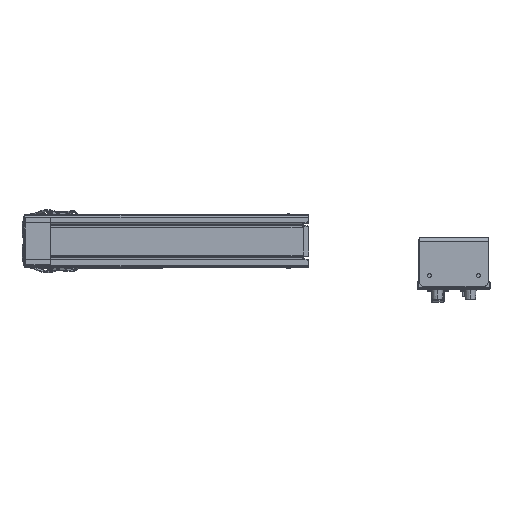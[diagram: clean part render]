
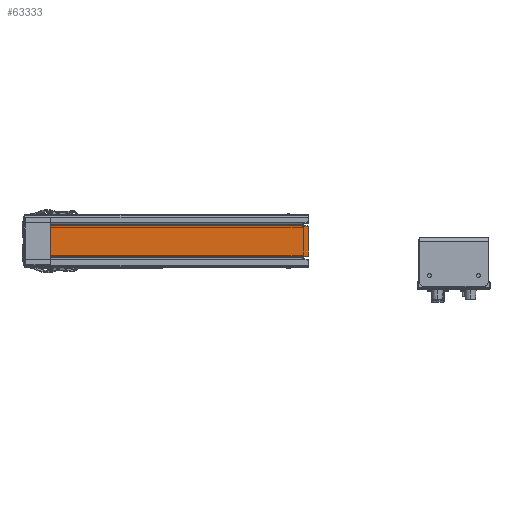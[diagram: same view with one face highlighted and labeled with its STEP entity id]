
A CAD part, top view. The second image highlights one B-rep face of the part: STEP entity #63333.
In plain terms, the highlighted planar face has unit normal (0, 0, 1).
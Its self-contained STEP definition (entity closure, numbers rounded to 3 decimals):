
#28 = ORIENTED_EDGE ( 'NONE', *, *, #23850, .T. ) ;
#2259 = EDGE_LOOP ( 'NONE', ( #103203, #34415, #23624, #61735, #85559, #110708, #113468, #28, #83830, #2580, #92955, #72600 ) ) ;
#2580 = ORIENTED_EDGE ( 'NONE', *, *, #63113, .T. ) ;
#5860 = DIRECTION ( 'NONE',  ( 0., 1., 0. ) ) ;
#7286 = CARTESIAN_POINT ( 'NONE',  ( -249.297, -28.491, 0. ) ) ;
#8068 = DIRECTION ( 'NONE',  ( 0., -1., 0. ) ) ;
#9393 = EDGE_CURVE ( 'NONE', #51497, #22510, #108124, .T. ) ;
#9629 = CARTESIAN_POINT ( 'NONE',  ( -249.3, -28.504, 0. ) ) ;
#10815 = DIRECTION ( 'NONE',  ( 0., 1., 0. ) ) ;
#11703 = CARTESIAN_POINT ( 'NONE',  ( 0., 27.765, 0. ) ) ;
#11950 = AXIS2_PLACEMENT_3D ( 'NONE', #39616, #77745, #87733 ) ;
#12118 = VECTOR ( 'NONE', #52143, 1000. ) ;
#14025 = CARTESIAN_POINT ( 'NONE',  ( -250.559, 28.465, 0. ) ) ;
#16931 = DIRECTION ( 'NONE',  ( 1., 0., 0. ) ) ;
#19835 = VECTOR ( 'NONE', #48571, 1000. ) ;
#20700 = DIRECTION ( 'NONE',  ( 1., 0., 0. ) ) ;
#21072 = B_SPLINE_CURVE_WITH_KNOTS ( 'NONE', 3,
 ( #54761, #7286, #38440, #75336 ),
 .UNSPECIFIED., .F., .F.,
 ( 4, 4 ),
 ( 0., 1. ),
 .UNSPECIFIED. ) ;
#21427 = VERTEX_POINT ( 'NONE', #108321 ) ;
#22038 = VERTEX_POINT ( 'NONE', #107276 ) ;
#22510 = VERTEX_POINT ( 'NONE', #101482 ) ;
#23624 = ORIENTED_EDGE ( 'NONE', *, *, #9393, .T. ) ;
#23850 = EDGE_CURVE ( 'NONE', #49413, #47483, #29821, .T. ) ;
#25664 = AXIS2_PLACEMENT_3D ( 'NONE', #61892, #33145, #71870 ) ;
#26315 = PLANE ( 'NONE',  #75943 ) ;
#27119 = EDGE_CURVE ( 'NONE', #22038, #21427, #63903, .T. ) ;
#29821 = LINE ( 'NONE', #38567, #19835 ) ;
#30499 = VERTEX_POINT ( 'NONE', #60720 ) ;
#33041 = VECTOR ( 'NONE', #5860, 1000. ) ;
#33145 = DIRECTION ( 'NONE',  ( 0., 0., 1. ) ) ;
#34415 = ORIENTED_EDGE ( 'NONE', *, *, #34573, .T. ) ;
#34573 = EDGE_CURVE ( 'NONE', #50140, #51497, #123254, .T. ) ;
#35679 = CARTESIAN_POINT ( 'NONE',  ( 0., 0., 0. ) ) ;
#37392 = LINE ( 'NONE', #95468, #76197 ) ;
#38440 = CARTESIAN_POINT ( 'NONE',  ( -249.294, -28.478, 0. ) ) ;
#38461 = CARTESIAN_POINT ( 'NONE',  ( -249.3, 28.504, 0. ) ) ;
#38567 = CARTESIAN_POINT ( 'NONE',  ( 239.3, 0., 0. ) ) ;
#39171 = LINE ( 'NONE', #11703, #109321 ) ;
#39616 = CARTESIAN_POINT ( 'NONE',  ( 247., -25.465, 0. ) ) ;
#43208 = CARTESIAN_POINT ( 'NONE',  ( -249.3, 28.504, 0. ) ) ;
#46552 = VERTEX_POINT ( 'NONE', #38461 ) ;
#47483 = VERTEX_POINT ( 'NONE', #52395 ) ;
#48571 = DIRECTION ( 'NONE',  ( 0., 1., 0. ) ) ;
#49413 = VERTEX_POINT ( 'NONE', #104637 ) ;
#49597 = VERTEX_POINT ( 'NONE', #106456 ) ;
#50140 = VERTEX_POINT ( 'NONE', #75474 ) ;
#50288 = CARTESIAN_POINT ( 'NONE',  ( 247., 27.765, 0. ) ) ;
#51497 = VERTEX_POINT ( 'NONE', #52138 ) ;
#52138 = CARTESIAN_POINT ( 'NONE',  ( 239.3, -27.765, 0. ) ) ;
#52143 = DIRECTION ( 'NONE',  ( 1., 0., 0. ) ) ;
#52395 = CARTESIAN_POINT ( 'NONE',  ( 239.3, 28.465, 0. ) ) ;
#53209 = CARTESIAN_POINT ( 'NONE',  ( -249.297, 28.491, 0. ) ) ;
#54761 = CARTESIAN_POINT ( 'NONE',  ( -249.3, -28.504, 0. ) ) ;
#57953 = DIRECTION ( 'NONE',  ( -1., 0., 0. ) ) ;
#60720 = CARTESIAN_POINT ( 'NONE',  ( -249.291, -28.465, 0. ) ) ;
#61505 = LINE ( 'NONE', #14025, #12118 ) ;
#61735 = ORIENTED_EDGE ( 'NONE', *, *, #100665, .T. ) ;
#61892 = CARTESIAN_POINT ( 'NONE',  ( 247., 25.465, 0. ) ) ;
#63113 = EDGE_CURVE ( 'NONE', #49597, #46552, #103128, .T. ) ;
#63333 = ADVANCED_FACE ( 'NONE', ( #104960 ), #26315, .T. ) ;
#63903 = LINE ( 'NONE', #121966, #33041 ) ;
#64891 = EDGE_CURVE ( 'NONE', #46552, #80003, #37392, .T. ) ;
#65800 = CIRCLE ( 'NONE', #11950, 2.3 ) ;
#68178 = CARTESIAN_POINT ( 'NONE',  ( 0., -27.765, 0. ) ) ;
#71870 = DIRECTION ( 'NONE',  ( 1., 0., 0. ) ) ;
#72600 = ORIENTED_EDGE ( 'NONE', *, *, #98468, .T. ) ;
#74816 = EDGE_CURVE ( 'NONE', #21427, #112735, #123368, .T. ) ;
#75336 = CARTESIAN_POINT ( 'NONE',  ( -249.291, -28.465, 0. ) ) ;
#75474 = CARTESIAN_POINT ( 'NONE',  ( 239.3, -28.465, 0. ) ) ;
#75943 = AXIS2_PLACEMENT_3D ( 'NONE', #35679, #102538, #16931 ) ;
#76197 = VECTOR ( 'NONE', #8068, 1000. ) ;
#76316 = DIRECTION ( 'NONE',  ( -1., 0., 0. ) ) ;
#77745 = DIRECTION ( 'NONE',  ( 0., 0., 1. ) ) ;
#80003 = VERTEX_POINT ( 'NONE', #9629 ) ;
#83830 = ORIENTED_EDGE ( 'NONE', *, *, #98762, .F. ) ;
#85559 = ORIENTED_EDGE ( 'NONE', *, *, #27119, .T. ) ;
#87733 = DIRECTION ( 'NONE',  ( 1., 0., 0. ) ) ;
#90080 = CARTESIAN_POINT ( 'NONE',  ( -249.291, 28.465, 0. ) ) ;
#92955 = ORIENTED_EDGE ( 'NONE', *, *, #64891, .T. ) ;
#92994 = EDGE_CURVE ( 'NONE', #50140, #30499, #115028, .T. ) ;
#95468 = CARTESIAN_POINT ( 'NONE',  ( -249.3, 0., 0. ) ) ;
#98468 = EDGE_CURVE ( 'NONE', #80003, #30499, #21072, .T. ) ;
#98762 = EDGE_CURVE ( 'NONE', #49597, #47483, #61505, .T. ) ;
#100665 = EDGE_CURVE ( 'NONE', #22510, #22038, #65800, .T. ) ;
#101482 = CARTESIAN_POINT ( 'NONE',  ( 247., -27.765, 0. ) ) ;
#102029 = VECTOR ( 'NONE', #20700, 1000. ) ;
#102538 = DIRECTION ( 'NONE',  ( 0., 0., 1. ) ) ;
#103128 = B_SPLINE_CURVE_WITH_KNOTS ( 'NONE', 3,
 ( #90080, #118787, #53209, #43208 ),
 .UNSPECIFIED., .F., .F.,
 ( 4, 4 ),
 ( 0., 1. ),
 .UNSPECIFIED. ) ;
#103203 = ORIENTED_EDGE ( 'NONE', *, *, #92994, .F. ) ;
#104637 = CARTESIAN_POINT ( 'NONE',  ( 239.3, 27.765, 0. ) ) ;
#104960 = FACE_OUTER_BOUND ( 'NONE', #2259, .T. ) ;
#105736 = CARTESIAN_POINT ( 'NONE',  ( 239.3, 0., 0. ) ) ;
#106456 = CARTESIAN_POINT ( 'NONE',  ( -249.291, 28.465, 0. ) ) ;
#107276 = CARTESIAN_POINT ( 'NONE',  ( 249.3, -25.465, 0. ) ) ;
#108124 = LINE ( 'NONE', #68178, #102029 ) ;
#108321 = CARTESIAN_POINT ( 'NONE',  ( 249.3, 25.465, 0. ) ) ;
#109321 = VECTOR ( 'NONE', #57953, 1000. ) ;
#110708 = ORIENTED_EDGE ( 'NONE', *, *, #74816, .T. ) ;
#111037 = EDGE_CURVE ( 'NONE', #112735, #49413, #39171, .T. ) ;
#112735 = VERTEX_POINT ( 'NONE', #50288 ) ;
#113468 = ORIENTED_EDGE ( 'NONE', *, *, #111037, .T. ) ;
#113907 = VECTOR ( 'NONE', #10815, 1000. ) ;
#115028 = LINE ( 'NONE', #115649, #117171 ) ;
#115649 = CARTESIAN_POINT ( 'NONE',  ( 250., -28.465, 0. ) ) ;
#117171 = VECTOR ( 'NONE', #76316, 1000. ) ;
#118787 = CARTESIAN_POINT ( 'NONE',  ( -249.294, 28.478, 0. ) ) ;
#121966 = CARTESIAN_POINT ( 'NONE',  ( 249.3, 0., 0. ) ) ;
#123254 = LINE ( 'NONE', #105736, #113907 ) ;
#123368 = CIRCLE ( 'NONE', #25664, 2.3 ) ;
